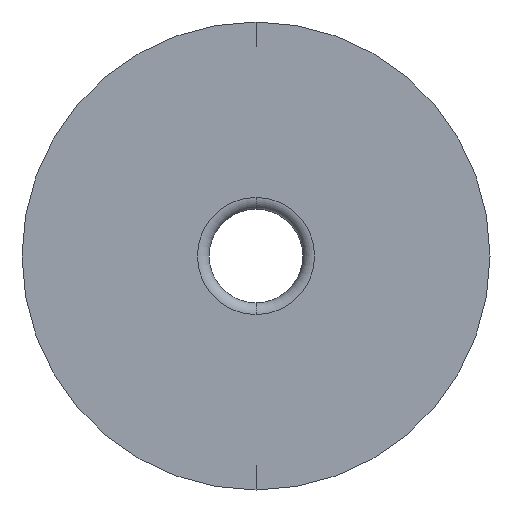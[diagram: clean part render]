
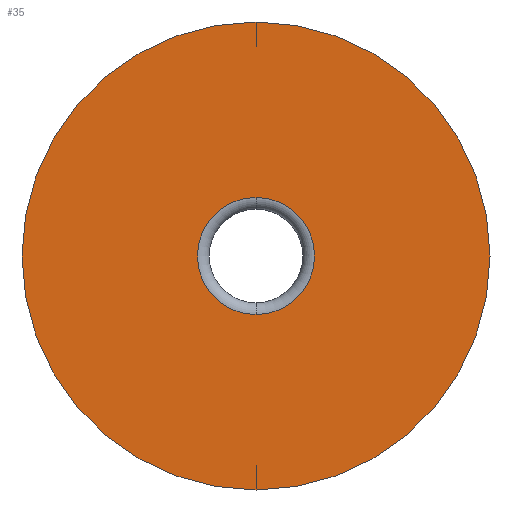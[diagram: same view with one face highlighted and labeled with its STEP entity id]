
A CAD part, front view. The second image highlights one B-rep face of the part: STEP entity #35.
In plain terms, the highlighted planar face has unit normal (0, -1, 0).
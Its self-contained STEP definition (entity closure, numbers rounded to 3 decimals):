
#35 = ADVANCED_FACE ( 'NONE', ( #454, #532 ), #656, .T. ) ;
#37 = CARTESIAN_POINT ( 'NONE',  ( 0., 0., 0. ) ) ;
#39 = CIRCLE ( 'NONE', #99, 1. ) ;
#46 = EDGE_CURVE ( 'NONE', #104, #650, #253, .T. ) ;
#50 = CIRCLE ( 'NONE', #310, 4. ) ;
#55 = DIRECTION ( 'NONE',  ( 0., -1., 0. ) ) ;
#99 = AXIS2_PLACEMENT_3D ( 'NONE', #314, #728, #133 ) ;
#104 = VERTEX_POINT ( 'NONE', #673 ) ;
#125 = EDGE_LOOP ( 'NONE', ( #255, #355 ) ) ;
#133 = DIRECTION ( 'NONE',  ( 0., 0., -1. ) ) ;
#138 = CIRCLE ( 'NONE', #357, 1. ) ;
#161 = EDGE_CURVE ( 'NONE', #650, #104, #50, .T. ) ;
#199 = EDGE_CURVE ( 'NONE', #268, #405, #138, .T. ) ;
#215 = DIRECTION ( 'NONE',  ( 0., -1., 0. ) ) ;
#229 = EDGE_LOOP ( 'NONE', ( #533, #622 ) ) ;
#248 = CARTESIAN_POINT ( 'NONE',  ( 0., 0., 0. ) ) ;
#253 = CIRCLE ( 'NONE', #608, 4. ) ;
#255 = ORIENTED_EDGE ( 'NONE', *, *, #312, .F. ) ;
#268 = VERTEX_POINT ( 'NONE', #732 ) ;
#310 = AXIS2_PLACEMENT_3D ( 'NONE', #320, #55, #350 ) ;
#312 = EDGE_CURVE ( 'NONE', #405, #268, #39, .T. ) ;
#314 = CARTESIAN_POINT ( 'NONE',  ( 0., 0., 0. ) ) ;
#316 = DIRECTION ( 'NONE',  ( 0., 0., -1. ) ) ;
#320 = CARTESIAN_POINT ( 'NONE',  ( 0., 0., 0. ) ) ;
#331 = DIRECTION ( 'NONE',  ( 0., -1., 0. ) ) ;
#350 = DIRECTION ( 'NONE',  ( 0., 0., -1. ) ) ;
#355 = ORIENTED_EDGE ( 'NONE', *, *, #199, .F. ) ;
#357 = AXIS2_PLACEMENT_3D ( 'NONE', #248, #331, #624 ) ;
#374 = DIRECTION ( 'NONE',  ( 0., 0., -1. ) ) ;
#405 = VERTEX_POINT ( 'NONE', #631 ) ;
#454 = FACE_OUTER_BOUND ( 'NONE', #229, .T. ) ;
#470 = CARTESIAN_POINT ( 'NONE',  ( 0., 0., -4. ) ) ;
#532 = FACE_BOUND ( 'NONE', #125, .T. ) ;
#533 = ORIENTED_EDGE ( 'NONE', *, *, #161, .T. ) ;
#579 = AXIS2_PLACEMENT_3D ( 'NONE', #751, #682, #374 ) ;
#608 = AXIS2_PLACEMENT_3D ( 'NONE', #37, #215, #316 ) ;
#622 = ORIENTED_EDGE ( 'NONE', *, *, #46, .T. ) ;
#624 = DIRECTION ( 'NONE',  ( 0., 0., -1. ) ) ;
#631 = CARTESIAN_POINT ( 'NONE',  ( 0., 0., -1. ) ) ;
#650 = VERTEX_POINT ( 'NONE', #470 ) ;
#656 = PLANE ( 'NONE',  #579 ) ;
#673 = CARTESIAN_POINT ( 'NONE',  ( 0., 0., 4. ) ) ;
#682 = DIRECTION ( 'NONE',  ( 0., -1., 0. ) ) ;
#728 = DIRECTION ( 'NONE',  ( 0., -1., 0. ) ) ;
#732 = CARTESIAN_POINT ( 'NONE',  ( 0., 0., 1. ) ) ;
#751 = CARTESIAN_POINT ( 'NONE',  ( 4., 0., 0. ) ) ;
